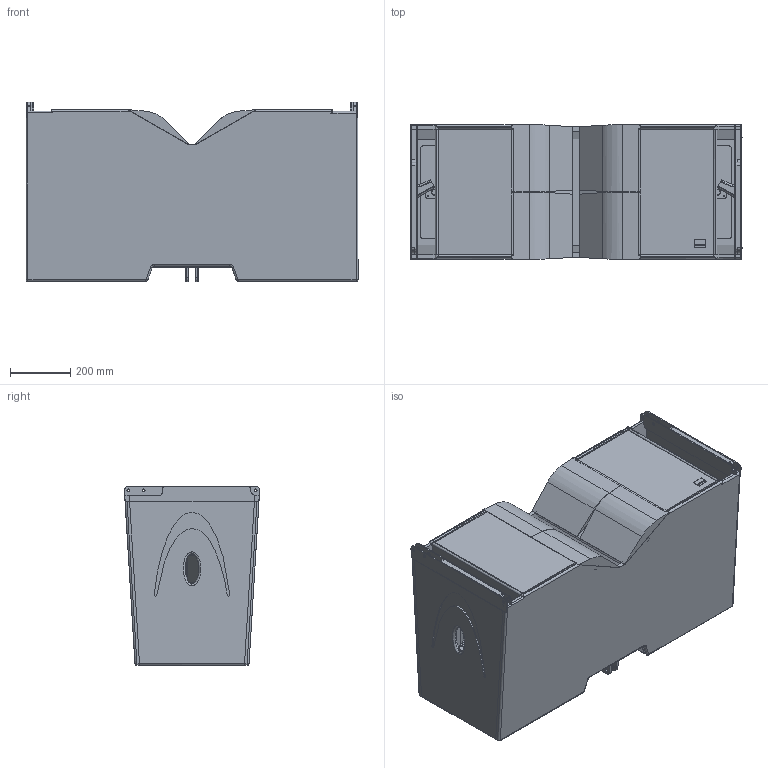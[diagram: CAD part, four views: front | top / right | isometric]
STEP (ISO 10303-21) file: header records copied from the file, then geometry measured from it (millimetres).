
FILE_DESCRIPTION (( 'STEP AP203' ), '1' );
FILE_NAME ('Seeburg_GaleoXT.STEP', '2012-10-17T10:27:53', ( 'Fabian' ), ( '' ), 'SwSTEP 2.0', 'SolidWorks 2009', '' );
FILE_SCHEMA (( 'CONFIG_CONTROL_DESIGN' ));
Products named in the file (33): Imported7; Imported1; Imported; Imported6; Imported8; Imported13; Imported14; Imported19; Imported20; Imported21; Imported27; Imported26; Seeburg_GaleoXT; GALEO_XT; Imported2; Imported3; Imported4; Imported5; Imported9; Imported10; Imported11; Imported12; Imported15; Imported16; Imported17; Imported18; Imported22; Imported23; Imported24; Imported25; Imported28; Imported29; Imported30
Assembly tree (32 placements, depth 3):
  Seeburg_GaleoXT
    GALEO_XT
      Imported30
      Imported14
      Imported
      Imported21
      Imported25
      Imported26
      Imported5
      Imported7
      Imported9
      Imported16
      Imported15
      Imported6
      Imported10
      Imported12
      Imported19
      Imported24
      Imported1
      Imported8
      Imported17
      Imported18
      Imported20
      Imported2
      Imported11
      Imported13
      Imported27
      Imported3
      Imported4
      Imported23
      Imported28
      Imported22
      Imported29
Bounding box: 1100 x 448.12 x 594 mm (x, y, z)
Volume: 43561087.5 mm3; surface area: 6703163.4 mm2
Topology: 42 solids, 42 shells, 1057 faces, 2644 edges, 1675 vertices
Faces by surface type: cylinder 454, plane 437, bspline 64, cone 50, sphere 36, torus 16
Entity records: 52233 total; most frequent: CARTESIAN_POINT 23804, ORIENTED_EDGE 5240, DIRECTION 5079, EDGE_CURVE 2620, AXIS2_PLACEMENT_3D 1795, VERTEX_POINT 1665, VECTOR 1489, LINE 1489
